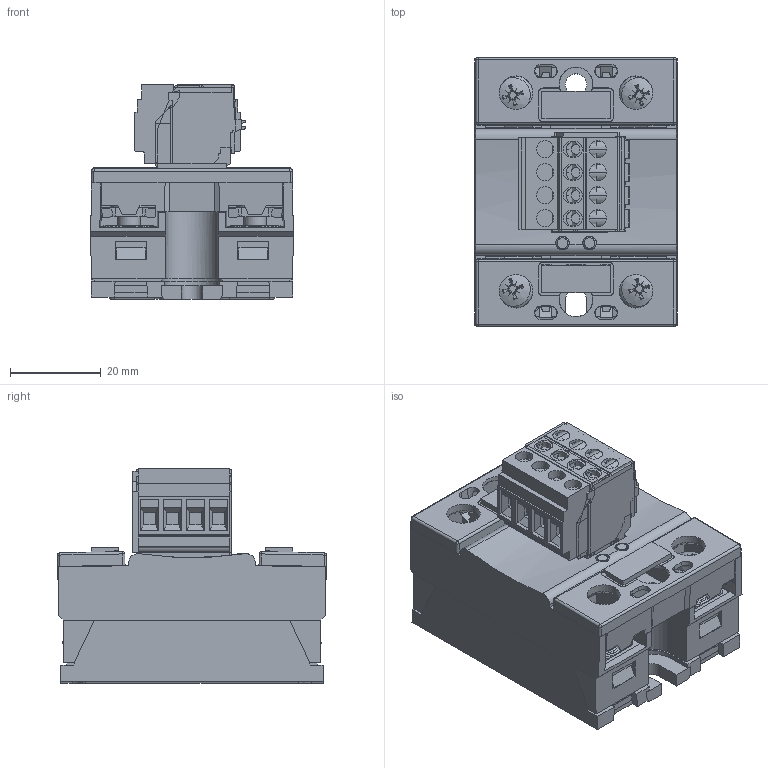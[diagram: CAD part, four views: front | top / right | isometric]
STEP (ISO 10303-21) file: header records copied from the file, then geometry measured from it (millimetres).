
FILE_DESCRIPTION((''),'2;1');
FILE_NAME('R:\Stock\3D pour clients\CELDUC references\2D3D 551 B and connectors.stp','2012-07-05T10:07:32',('Georges THOLLOT ','Tl : +33 (0)4 77 53 90 27','gthollot@celduc.com'),('Celduc r e l a i s','5, rue Ampre, BP 30004','42290 SORBIERS - France','Fax. : +33 (0)4 77 53 85 51','N siret 353 310 519 00015','ISO 9001 N QUAL/1993/1106b','www.celduc.com'),'Autodesk Inventor 2010','Autodesk Inventor 2010','');
FILE_SCHEMA(('CONFIG_CONTROL_DESIGN'));
Length unit declared in the file: millimetre
Products named in the file (8): SOB and connectors; SOB SDH; fkcvr_2.5-4-st-5.08; connecteur WAGO 4 bornes au pas de 5.08; blz_5_08_4_90_sn_sw_1552910000_12; BLZ 5.08/4/270 SN SW 1557510000; 1741890000 BLZ 5.08/4/225 SN SW; BLDT 5.08/4 SN SW 1660730000
Assembly tree (7 placements, depth 2):
  SOB and connectors
    SOB SDH
    fkcvr_2.5-4-st-5.08
    connecteur WAGO 4 bornes au pas de 5.08
    blz_5_08_4_90_sn_sw_1552910000_12
    BLZ 5.08/4/270 SN SW 1557510000
    1741890000 BLZ 5.08/4/225 SN SW
    BLDT 5.08/4 SN SW 1660730000
Bounding box: 44.8 x 59.39 x 47.45 mm (x, y, z)
Volume: 92707.7 mm3; surface area: 39134.3 mm2
Topology: 7 solids, 7 shells, 2599 faces, 6929 edges, 4444 vertices
Faces by surface type: plane 1684, cylinder 458, cone 283, bspline 118, sphere 36, torus 20
Full cylindrical faces by diameter (mm): 2.35 x2, 3.6 x12, 3.8 x8, 3.9 x12, 4.567 x4, 4.7 x1, 5 x4
Entity records: 84504 total; most frequent: CARTESIAN_POINT 19679, ORIENTED_EDGE 13520, DIRECTION 12571, EDGE_CURVE 6760, VECTOR 4787, LINE 4787, VERTEX_POINT 4416, AXIS2_PLACEMENT_3D 3892
